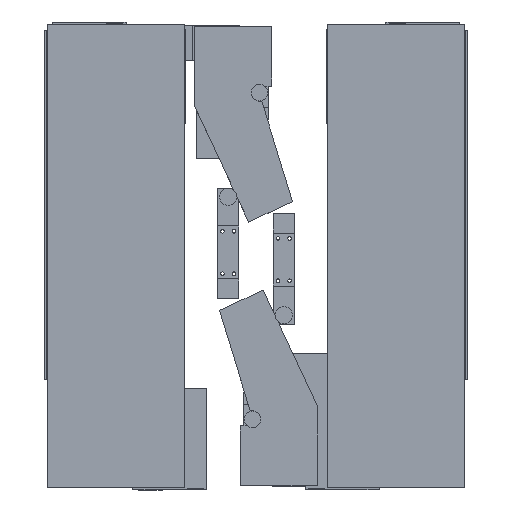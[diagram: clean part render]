
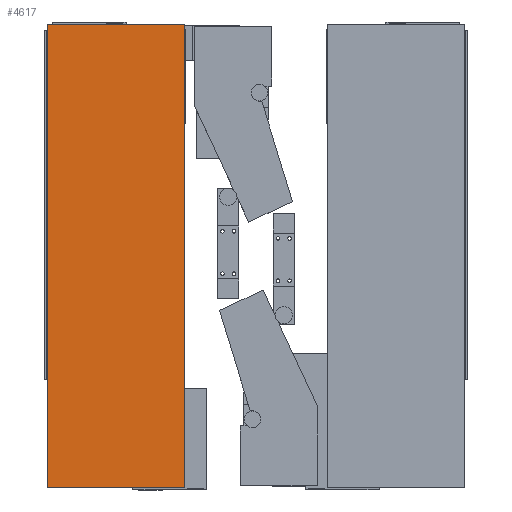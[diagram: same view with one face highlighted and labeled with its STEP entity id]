
A CAD part, top view. The second image highlights one B-rep face of the part: STEP entity #4617.
In plain terms, the highlighted planar face has unit normal (0, 0, 1).
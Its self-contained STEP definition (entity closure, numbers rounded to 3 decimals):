
#4617=ADVANCED_FACE('',(#8448),#8449,.F.);
#8448=FACE_OUTER_BOUND('',#14243,.T.);
#8449=PLANE('',#14244);
#14243=EDGE_LOOP('',(#17497,#17498,#17499,#17500));
#14244=AXIS2_PLACEMENT_3D('',#17501,#17502,#17503);
#17497=ORIENTED_EDGE('',*,*,#25264,.T.);
#17498=ORIENTED_EDGE('',*,*,#25222,.T.);
#17499=ORIENTED_EDGE('',*,*,#25259,.T.);
#17500=ORIENTED_EDGE('',*,*,#25237,.T.);
#17501=CARTESIAN_POINT('',(0.,265.0,38.5));
#17502=DIRECTION('',(0.0,-0.0,-1.0));
#17503=DIRECTION('',(1.0,0.,0.0));
#25222=EDGE_CURVE('',#28980,#28981,#28982,.T.);
#25237=EDGE_CURVE('',#29006,#29004,#29007,.T.);
#25259=EDGE_CURVE('',#28981,#29006,#29037,.T.);
#25264=EDGE_CURVE('',#29004,#28980,#29042,.T.);
#28980=VERTEX_POINT('',#32152);
#28981=VERTEX_POINT('',#32153);
#28982=LINE('',#32154,#32155);
#29004=VERTEX_POINT('',#32187);
#29006=VERTEX_POINT('',#32190);
#29007=LINE('',#32191,#32192);
#29037=LINE('',#32233,#32234);
#29042=LINE('',#32241,#32242);
#32152=CARTESIAN_POINT('',(-236.0,526.9,38.5));
#32153=CARTESIAN_POINT('',(-236.0,3.1,38.5));
#32154=CARTESIAN_POINT('',(-236.0,265.0,38.5));
#32155=VECTOR('',#36425,1.0);
#32187=CARTESIAN_POINT('',(-81.4,526.9,38.5));
#32190=CARTESIAN_POINT('',(-81.4,3.1,38.5));
#32191=CARTESIAN_POINT('',(-81.4,395.95,38.5));
#32192=VECTOR('',#36437,10.0);
#32233=CARTESIAN_POINT('',(-197.35,3.1,38.5));
#32234=VECTOR('',#36461,10.0);
#32241=CARTESIAN_POINT('',(-196.522,526.9,38.5));
#32242=VECTOR('',#36464,10.0);
#36425=DIRECTION('',(0.,-1.0,0.0));
#36437=DIRECTION('',(0.,1.0,0.0));
#36461=DIRECTION('',(1.0,0.,0.0));
#36464=DIRECTION('',(-1.0,0.,0.0));
